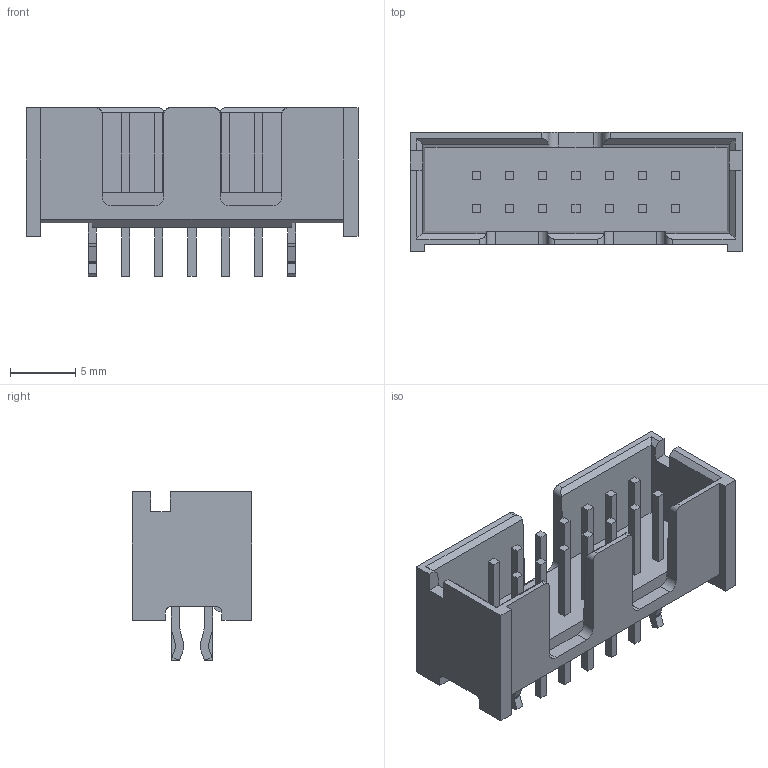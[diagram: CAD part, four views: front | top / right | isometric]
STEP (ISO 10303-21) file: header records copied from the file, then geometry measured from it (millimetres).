
FILE_DESCRIPTION(('STEP AP242'),'1');
FILE_NAME('5104338-2.stp','2021-03-08T10:24:33',('TraceParts'),('TraceParts S.A.'),'Spatial InterOp 3D',' ',' ');
FILE_SCHEMA(('AP242_MANAGED_MODEL_BASED_3D_ENGINEERING_MIM_LF {1 0 10303 442 1 1 4}'));
Length unit declared in the file: millimetre
Products named in the file (1): 5104338-2
Bounding box: 25.4 x 9.14 x 12.9 mm (x, y, z)
Volume: 890.9 mm3; surface area: 1669.4 mm2
Topology: 1 solids, 1 shells, 262 faces, 686 edges, 454 vertices
Faces by surface type: plane 221, cylinder 41
Entity records: 7985 total; most frequent: CARTESIAN_POINT 1451, ORIENTED_EDGE 1372, DIRECTION 1276, EDGE_CURVE 686, LINE 598, VECTOR 598, VERTEX_POINT 454, AXIS2_PLACEMENT_3D 339
